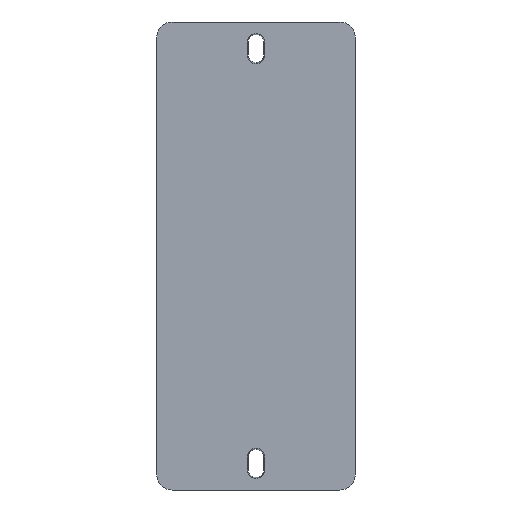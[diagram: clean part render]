
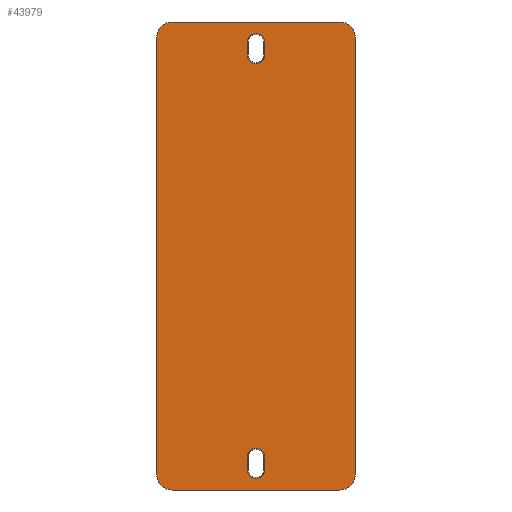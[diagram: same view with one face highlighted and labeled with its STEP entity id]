
A CAD part, front view. The second image highlights one B-rep face of the part: STEP entity #43979.
In plain terms, the highlighted planar face has unit normal (0, -1, 0).
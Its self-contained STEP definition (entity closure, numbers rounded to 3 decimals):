
#3060=CARTESIAN_POINT('',(-27.5,0.,-37.2));
#3061=DIRECTION('',(0.,-1.,0.));
#3062=DIRECTION('',(-1.,0.,0.));
#3063=AXIS2_PLACEMENT_3D('',#3060,#3061,#3062);
#3065=DIRECTION('',(0.,0.,-1.));
#3066=VECTOR('',#3065,143.4);
#3067=CARTESIAN_POINT('',(-32.5,0.,106.2));
#3068=LINE('',#3067,#3066);
#3069=CARTESIAN_POINT('',(-27.5,0.,106.2));
#3070=DIRECTION('',(0.,-1.,0.));
#3071=DIRECTION('',(0.,0.,1.));
#3072=AXIS2_PLACEMENT_3D('',#3069,#3070,#3071);
#3074=DIRECTION('',(-1.,0.,0.));
#3075=VECTOR('',#3074,55.);
#3076=CARTESIAN_POINT('',(27.5,0.,111.2));
#3077=LINE('',#3076,#3075);
#3078=CARTESIAN_POINT('',(27.5,0.,106.2));
#3079=DIRECTION('',(0.,-1.,0.));
#3080=DIRECTION('',(1.,0.,0.));
#3081=AXIS2_PLACEMENT_3D('',#3078,#3079,#3080);
#3083=DIRECTION('',(0.,0.,1.));
#3084=VECTOR('',#3083,143.4);
#3085=CARTESIAN_POINT('',(32.5,0.,-37.2));
#3086=LINE('',#3085,#3084);
#3087=CARTESIAN_POINT('',(27.5,0.,-37.2));
#3088=DIRECTION('',(0.,-1.,0.));
#3089=DIRECTION('',(0.,0.,-1.));
#3090=AXIS2_PLACEMENT_3D('',#3087,#3088,#3089);
#3092=DIRECTION('',(1.,0.,0.));
#3093=VECTOR('',#3092,55.);
#3094=CARTESIAN_POINT('',(-27.5,0.,-42.2));
#3095=LINE('',#3094,#3093);
#3096=DIRECTION('',(0.,0.,1.));
#3097=VECTOR('',#3096,4.);
#3098=CARTESIAN_POINT('',(-2.939,0.,100.5));
#3099=LINE('',#3098,#3097);
#3100=CARTESIAN_POINT('',(0.,0.,100.5));
#3101=DIRECTION('',(0.,1.,0.));
#3102=DIRECTION('',(1.,0.,0.));
#3103=AXIS2_PLACEMENT_3D('',#3100,#3101,#3102);
#3105=DIRECTION('',(0.,0.,-1.));
#3106=VECTOR('',#3105,4.);
#3107=CARTESIAN_POINT('',(2.939,0.,104.5));
#3108=LINE('',#3107,#3106);
#3109=CARTESIAN_POINT('',(0.,0.,104.5));
#3110=DIRECTION('',(0.,1.,0.));
#3111=DIRECTION('',(0.,0.,1.));
#3112=AXIS2_PLACEMENT_3D('',#3109,#3110,#3111);
#3114=CARTESIAN_POINT('',(0.,0.,104.5));
#3115=DIRECTION('',(0.,1.,0.));
#3116=DIRECTION('',(-1.,0.,0.));
#3117=AXIS2_PLACEMENT_3D('',#3114,#3115,#3116);
#3119=CARTESIAN_POINT('',(0.,0.,-31.5));
#3120=DIRECTION('',(0.,1.,0.));
#3121=DIRECTION('',(0.,0.,1.));
#3122=AXIS2_PLACEMENT_3D('',#3119,#3120,#3121);
#3124=CARTESIAN_POINT('',(0.,0.,-31.5));
#3125=DIRECTION('',(0.,1.,0.));
#3126=DIRECTION('',(-1.,0.,0.));
#3127=AXIS2_PLACEMENT_3D('',#3124,#3125,#3126);
#3129=CARTESIAN_POINT('',(0.,0.,-35.5));
#3130=DIRECTION('',(0.,1.,0.));
#3131=DIRECTION('',(1.,0.,0.));
#3132=AXIS2_PLACEMENT_3D('',#3129,#3130,#3131);
#3546=DIRECTION('',(0.,0.,-1.));
#3547=VECTOR('',#3546,4.);
#3548=CARTESIAN_POINT('',(-2.944,0.,-31.5));
#3549=LINE('',#3548,#3547);
#3566=DIRECTION('',(0.,0.,1.));
#3567=VECTOR('',#3566,4.);
#3568=CARTESIAN_POINT('',(2.944,0.,-35.5));
#3569=LINE('',#3568,#3567);
#33200=CARTESIAN_POINT('',(-2.939,0.,
104.5));
#33201=CARTESIAN_POINT('',(0.,0.,107.439));
#33202=VERTEX_POINT('',#33200);
#33203=VERTEX_POINT('',#33201);
#33490=CARTESIAN_POINT('',(32.5,0.,106.2));
#33491=CARTESIAN_POINT('',(27.5,0.,111.2));
#33492=VERTEX_POINT('',#33490);
#33493=VERTEX_POINT('',#33491);
#33834=CARTESIAN_POINT('',(27.5,0.,-42.2));
#33835=CARTESIAN_POINT('',(32.5,0.,-37.2));
#33836=VERTEX_POINT('',#33834);
#33837=VERTEX_POINT('',#33835);
#34707=CARTESIAN_POINT('',(-27.5,0.,111.2));
#34708=VERTEX_POINT('',#34707);
#36199=CARTESIAN_POINT('',(-2.939,0.,100.5));
#36200=VERTEX_POINT('',#36199);
#36484=CARTESIAN_POINT('',(2.944,0.,-35.5));
#36485=CARTESIAN_POINT('',(2.944,0.,-31.5));
#36486=VERTEX_POINT('',#36484);
#36487=VERTEX_POINT('',#36485);
#36537=CARTESIAN_POINT('',(-32.5,0.,106.2));
#36538=VERTEX_POINT('',#36537);
#37132=CARTESIAN_POINT('',(-32.5,0.,-37.2));
#37133=CARTESIAN_POINT('',(-27.5,0.,-42.2));
#37134=VERTEX_POINT('',#37132);
#37135=VERTEX_POINT('',#37133);
#37996=CARTESIAN_POINT('',(2.939,0.,104.5));
#37998=VERTEX_POINT('',#37996);
#38666=CARTESIAN_POINT('',(-2.944,0.,-35.5));
#38667=VERTEX_POINT('',#38666);
#39615=CARTESIAN_POINT('',(-2.944,0.,
-31.5));
#39616=CARTESIAN_POINT('',(0.,0.,
-28.556));
#39617=VERTEX_POINT('',#39615);
#39618=VERTEX_POINT('',#39616);
#40415=CARTESIAN_POINT('',(2.939,0.,
100.5));
#40416=VERTEX_POINT('',#40415);
#43934=CARTESIAN_POINT('',(0.,0.,0.));
#43935=DIRECTION('',(0.,1.,0.));
#43936=DIRECTION('',(0.,0.,-1.));
#43937=AXIS2_PLACEMENT_3D('',#43934,#43935,#43936);
#43938=PLANE('',#43937);
#43940=ORIENTED_EDGE('',*,*,#43939,.F.);
#43942=ORIENTED_EDGE('',*,*,#43941,.F.);
#43944=ORIENTED_EDGE('',*,*,#43943,.F.);
#43946=ORIENTED_EDGE('',*,*,#43945,.F.);
#43948=ORIENTED_EDGE('',*,*,#43947,.F.);
#43950=ORIENTED_EDGE('',*,*,#43949,.F.);
#43951=ORIENTED_EDGE('',*,*,#43899,.F.);
#43952=ORIENTED_EDGE('',*,*,#43913,.F.);
#43953=EDGE_LOOP('',(#43940,#43942,#43944,#43946,#43948,#43950,#43951,#43952));
#43954=FACE_OUTER_BOUND('',#43953,.F.);
#43956=ORIENTED_EDGE('',*,*,#43955,.F.);
#43958=ORIENTED_EDGE('',*,*,#43957,.F.);
#43960=ORIENTED_EDGE('',*,*,#43959,.F.);
#43962=ORIENTED_EDGE('',*,*,#43961,.F.);
#43964=ORIENTED_EDGE('',*,*,#43963,.F.);
#43965=EDGE_LOOP('',(#43956,#43958,#43960,#43962,#43964));
#43966=FACE_BOUND('',#43965,.F.);
#43968=ORIENTED_EDGE('',*,*,#43967,.F.);
#43970=ORIENTED_EDGE('',*,*,#43969,.F.);
#43972=ORIENTED_EDGE('',*,*,#43971,.T.);
#43974=ORIENTED_EDGE('',*,*,#43973,.F.);
#43976=ORIENTED_EDGE('',*,*,#43975,.T.);
#43977=EDGE_LOOP('',(#43968,#43970,#43972,#43974,#43976));
#43978=FACE_BOUND('',#43977,.F.);
#43979=ADVANCED_FACE('',(#43954,#43966,#43978),#43938,.F.);
#3064=CIRCLE('',#3063,5.);
#3073=CIRCLE('',#3072,5.);
#3082=CIRCLE('',#3081,5.);
#3091=CIRCLE('',#3090,5.);
#3104=CIRCLE('',#3103,2.939);
#3113=CIRCLE('',#3112,2.939);
#3118=CIRCLE('',#3117,2.939);
#3123=CIRCLE('',#3122,2.944);
#3128=CIRCLE('',#3127,2.944);
#3133=CIRCLE('',#3132,2.944);
#43899=EDGE_CURVE('',#33836,#33837,#3091,.T.);
#43913=EDGE_CURVE('',#37135,#33836,#3095,.T.);
#43939=EDGE_CURVE('',#37134,#37135,#3064,.T.);
#43941=EDGE_CURVE('',#36538,#37134,#3068,.T.);
#43943=EDGE_CURVE('',#34708,#36538,#3073,.T.);
#43945=EDGE_CURVE('',#33493,#34708,#3077,.T.);
#43947=EDGE_CURVE('',#33492,#33493,#3082,.T.);
#43949=EDGE_CURVE('',#33837,#33492,#3086,.T.);
#43955=EDGE_CURVE('',#36200,#33202,#3099,.T.);
#43957=EDGE_CURVE('',#40416,#36200,#3104,.T.);
#43959=EDGE_CURVE('',#37998,#40416,#3108,.T.);
#43961=EDGE_CURVE('',#33203,#37998,#3113,.T.);
#43963=EDGE_CURVE('',#33202,#33203,#3118,.T.);
#43967=EDGE_CURVE('',#39618,#36487,#3123,.T.);
#43969=EDGE_CURVE('',#39617,#39618,#3128,.T.);
#43971=EDGE_CURVE('',#39617,#38667,#3549,.T.);
#43973=EDGE_CURVE('',#36486,#38667,#3133,.T.);
#43975=EDGE_CURVE('',#36486,#36487,#3569,.T.);
